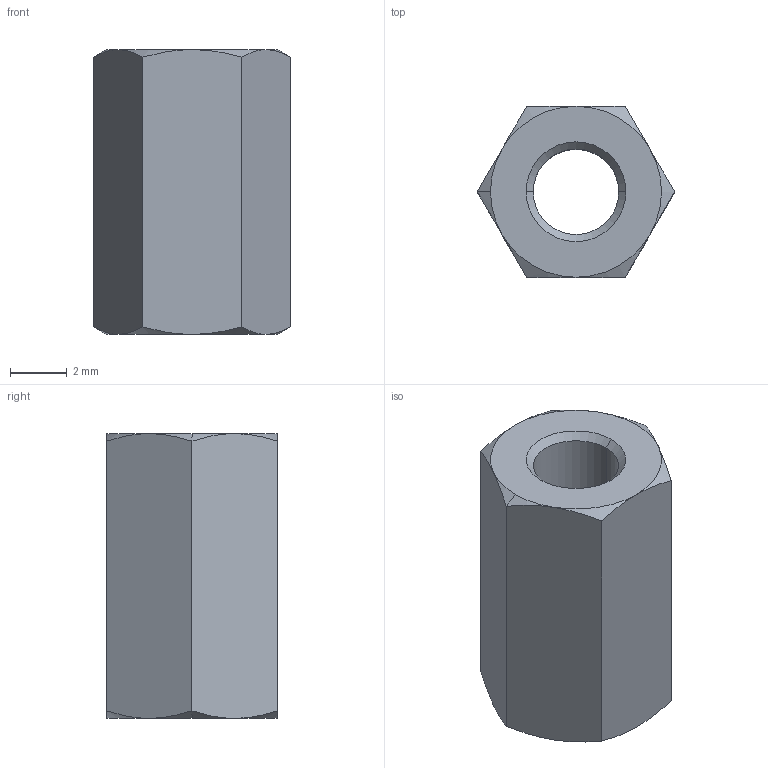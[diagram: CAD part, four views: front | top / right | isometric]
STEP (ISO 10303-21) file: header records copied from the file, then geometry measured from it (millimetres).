
FILE_DESCRIPTION (( 'STEP AP203' ), '1' );
FILE_NAME ('N0503.030-010-NP.step', '2025-02-27T14:40:45', ( '' ), ( '' ), 'SwSTEP 2.0', 'SolidWorks 2019', '' );
FILE_SCHEMA (( 'CONFIG_CONTROL_DESIGN' ));
Length unit declared in the file: millimetre
Products named in the file (1): N0503.030-010-NP
Bounding box: 6.93 x 6 x 10 mm (x, y, z)
Volume: 240 mm3; surface area: 344.8 mm2
Topology: 1 solids, 1 shells, 28 faces, 60 edges, 34 vertices
Faces by surface type: cone 18, plane 8, cylinder 2
Entity records: 875 total; most frequent: CARTESIAN_POINT 223, ORIENTED_EDGE 120, DIRECTION 116, EDGE_CURVE 60, AXIS2_PLACEMENT_3D 51, VERTEX_POINT 34, EDGE_LOOP 30, FACE_OUTER_BOUND 28
